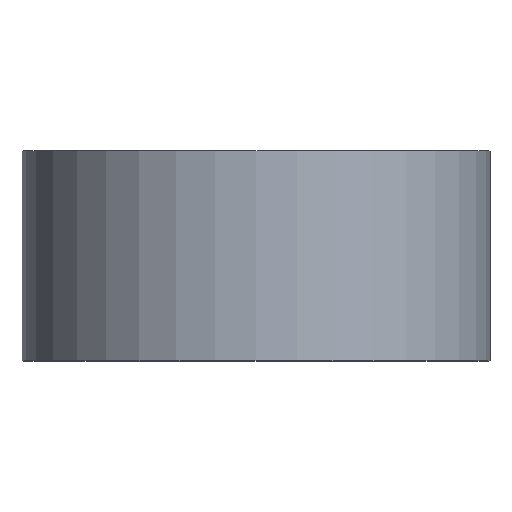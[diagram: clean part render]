
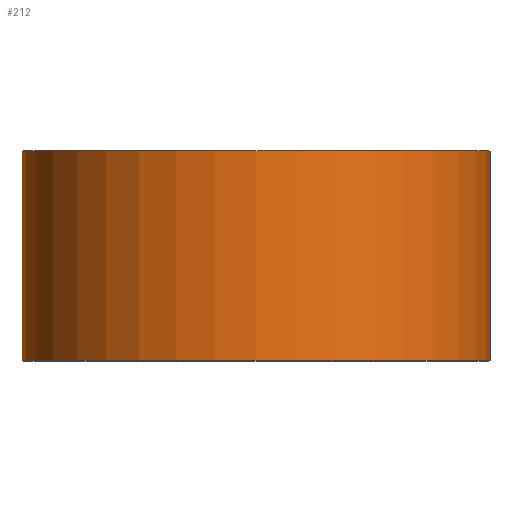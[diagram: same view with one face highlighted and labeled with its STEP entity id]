
A CAD part, top view. The second image highlights one B-rep face of the part: STEP entity #212.
In plain terms, the highlighted cylindrical face has radius 39 mm (diameter 78 mm), a partial arc.
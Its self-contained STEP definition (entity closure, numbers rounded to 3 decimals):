
#4 = LINE ( 'NONE', #167, #261 ) ;
#31 = LINE ( 'NONE', #295, #175 ) ;
#46 = DIRECTION ( 'NONE',  ( 0., 1., 0. ) ) ;
#56 = CARTESIAN_POINT ( 'NONE',  ( 0., 0., 0. ) ) ;
#57 = ORIENTED_EDGE ( 'NONE', *, *, #61, .T. ) ;
#61 = EDGE_CURVE ( 'NONE', #253, #257, #160, .T. ) ;
#67 = CIRCLE ( 'NONE', #264, 39. ) ;
#68 = ORIENTED_EDGE ( 'NONE', *, *, #223, .T. ) ;
#81 = EDGE_CURVE ( 'NONE', #253, #211, #4, .T. ) ;
#86 = DIRECTION ( 'NONE',  ( -1., 0., 0. ) ) ;
#88 = EDGE_LOOP ( 'NONE', ( #57, #68, #166, #187 ) ) ;
#104 = DIRECTION ( 'NONE',  ( -1., 0., 0. ) ) ;
#113 = CARTESIAN_POINT ( 'NONE',  ( 0., 0., 0. ) ) ;
#133 = FACE_OUTER_BOUND ( 'NONE', #88, .T. ) ;
#135 = DIRECTION ( 'NONE',  ( 0., 1., 0. ) ) ;
#139 = DIRECTION ( 'NONE',  ( 0., 1., 0. ) ) ;
#149 = DIRECTION ( 'NONE',  ( 0., 1., 0. ) ) ;
#160 = CIRCLE ( 'NONE', #274, 39. ) ;
#161 = DIRECTION ( 'NONE',  ( -1., 0., 0. ) ) ;
#166 = ORIENTED_EDGE ( 'NONE', *, *, #239, .F. ) ;
#167 = CARTESIAN_POINT ( 'NONE',  ( -39., 0., 0. ) ) ;
#175 = VECTOR ( 'NONE', #139, 1000. ) ;
#181 = DIRECTION ( 'NONE',  ( 0., 1., 0. ) ) ;
#187 = ORIENTED_EDGE ( 'NONE', *, *, #81, .F. ) ;
#198 = CYLINDRICAL_SURFACE ( 'NONE', #200, 39. ) ;
#200 = AXIS2_PLACEMENT_3D ( 'NONE', #113, #181, #86 ) ;
#204 = CARTESIAN_POINT ( 'NONE',  ( -39., 0., 0. ) ) ;
#211 = VERTEX_POINT ( 'NONE', #220 ) ;
#212 = ADVANCED_FACE ( 'NONE', ( #133 ), #198, .T. ) ;
#220 = CARTESIAN_POINT ( 'NONE',  ( -39., 35., 0. ) ) ;
#223 = EDGE_CURVE ( 'NONE', #257, #286, #31, .T. ) ;
#228 = CARTESIAN_POINT ( 'NONE',  ( 39., 0., 0. ) ) ;
#239 = EDGE_CURVE ( 'NONE', #211, #286, #67, .T. ) ;
#252 = CARTESIAN_POINT ( 'NONE',  ( 0., 35., 0. ) ) ;
#253 = VERTEX_POINT ( 'NONE', #204 ) ;
#257 = VERTEX_POINT ( 'NONE', #228 ) ;
#261 = VECTOR ( 'NONE', #149, 1000. ) ;
#264 = AXIS2_PLACEMENT_3D ( 'NONE', #252, #46, #161 ) ;
#274 = AXIS2_PLACEMENT_3D ( 'NONE', #56, #135, #104 ) ;
#286 = VERTEX_POINT ( 'NONE', #293 ) ;
#293 = CARTESIAN_POINT ( 'NONE',  ( 39., 35., 0. ) ) ;
#295 = CARTESIAN_POINT ( 'NONE',  ( 39., 0., 0. ) ) ;
